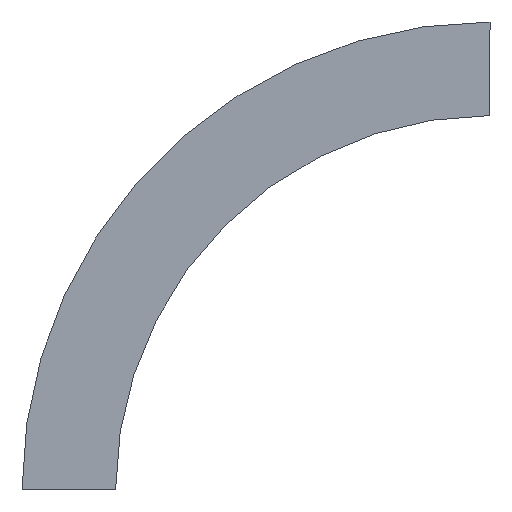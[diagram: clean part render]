
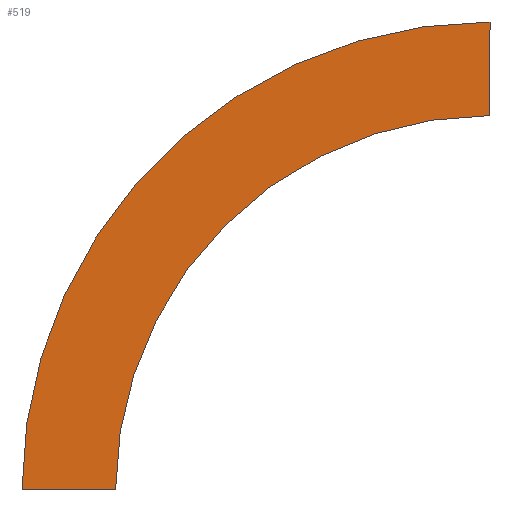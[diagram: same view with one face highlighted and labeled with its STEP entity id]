
A CAD part, left-side view. The second image highlights one B-rep face of the part: STEP entity #519.
In plain terms, the highlighted planar face has unit normal (-1, 0, 0) as drawn and (1, 0, 0) by its records, which use the part's own axes.
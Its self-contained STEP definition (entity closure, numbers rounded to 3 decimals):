
#8 = CARTESIAN_POINT ( 'NONE',  ( 0., 0., 0. ) ) ;
#13 = AXIS2_PLACEMENT_3D ( 'NONE', #49, #424, #191 ) ;
#15 = CARTESIAN_POINT ( 'NONE',  ( 0., -300., 375. ) ) ;
#38 = CARTESIAN_POINT ( 'NONE',  ( 0., 0., 0. ) ) ;
#49 = CARTESIAN_POINT ( 'NONE',  ( 0., -300., 0. ) ) ;
#60 = VECTOR ( 'NONE', #148, 1000. ) ;
#62 = EDGE_LOOP ( 'NONE', ( #296, #574, #439, #84 ) ) ;
#63 = DIRECTION ( 'NONE',  ( 1., 0., 0. ) ) ;
#84 = ORIENTED_EDGE ( 'NONE', *, *, #568, .T. ) ;
#114 = CARTESIAN_POINT ( 'NONE',  ( 0., 0., 0. ) ) ;
#120 = DIRECTION ( 'NONE',  ( 0., 0., -1. ) ) ;
#133 = VERTEX_POINT ( 'NONE', #38 ) ;
#147 = DIRECTION ( 'NONE',  ( 0., 0., 1. ) ) ;
#148 = DIRECTION ( 'NONE',  ( 0., 1., 0. ) ) ;
#191 = DIRECTION ( 'NONE',  ( 0., 1., 0. ) ) ;
#193 = AXIS2_PLACEMENT_3D ( 'NONE', #561, #377, #506 ) ;
#226 = AXIS2_PLACEMENT_3D ( 'NONE', #114, #63, #120 ) ;
#230 = LINE ( 'NONE', #8, #60 ) ;
#265 = VECTOR ( 'NONE', #147, 1000. ) ;
#296 = ORIENTED_EDGE ( 'NONE', *, *, #306, .T. ) ;
#306 = EDGE_CURVE ( 'NONE', #316, #394, #521, .T. ) ;
#316 = VERTEX_POINT ( 'NONE', #557 ) ;
#331 = LINE ( 'NONE', #509, #265 ) ;
#332 = VERTEX_POINT ( 'NONE', #459 ) ;
#337 = FACE_OUTER_BOUND ( 'NONE', #62, .T. ) ;
#358 = CIRCLE ( 'NONE', #13, 300. ) ;
#377 = DIRECTION ( 'NONE',  ( 1., 0., 0. ) ) ;
#390 = PLANE ( 'NONE',  #226 ) ;
#394 = VERTEX_POINT ( 'NONE', #15 ) ;
#397 = EDGE_CURVE ( 'NONE', #133, #332, #358, .T. ) ;
#418 = EDGE_CURVE ( 'NONE', #332, #394, #331, .T. ) ;
#424 = DIRECTION ( 'NONE',  ( 1., 0., 0. ) ) ;
#439 = ORIENTED_EDGE ( 'NONE', *, *, #397, .F. ) ;
#459 = CARTESIAN_POINT ( 'NONE',  ( 0., -300., 300. ) ) ;
#506 = DIRECTION ( 'NONE',  ( 0., 1., 0. ) ) ;
#509 = CARTESIAN_POINT ( 'NONE',  ( 0., -300., 300. ) ) ;
#519 = ADVANCED_FACE ( 'NONE', ( #337 ), #390, .T. ) ;
#521 = CIRCLE ( 'NONE', #193, 375. ) ;
#557 = CARTESIAN_POINT ( 'NONE',  ( 0., 75., 0. ) ) ;
#561 = CARTESIAN_POINT ( 'NONE',  ( 0., -300., 0. ) ) ;
#568 = EDGE_CURVE ( 'NONE', #133, #316, #230, .T. ) ;
#574 = ORIENTED_EDGE ( 'NONE', *, *, #418, .F. ) ;
